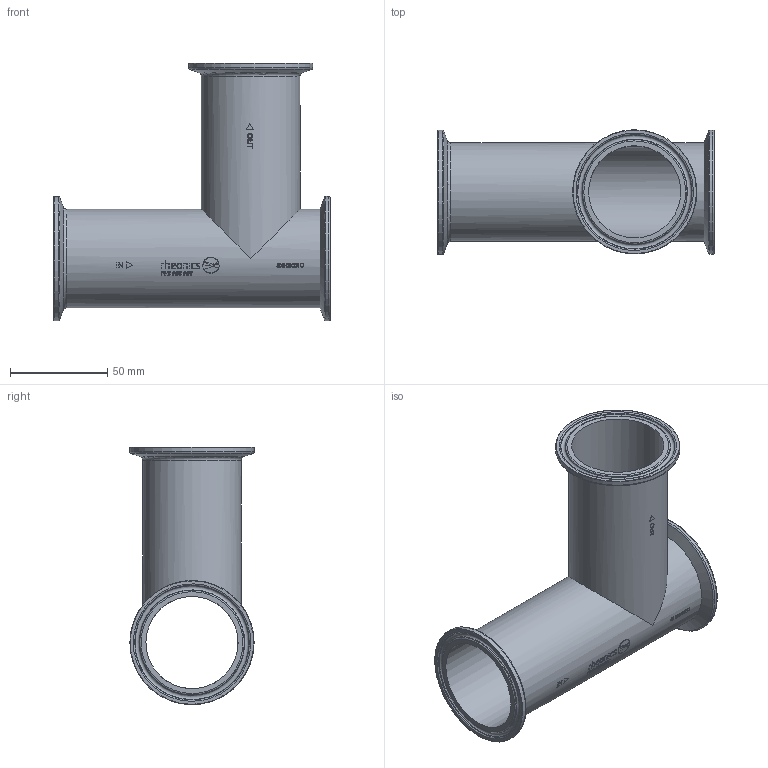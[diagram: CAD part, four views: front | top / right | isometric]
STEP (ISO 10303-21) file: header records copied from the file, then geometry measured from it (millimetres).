
FILE_DESCRIPTION(/* description */ ('Unknown'),/* implementation_level */ '2;1');
FILE_NAME(/* name */ 'FET-20T-20T',/* time_stamp */ '2024-08-13T15:55:27-05:00',/* author */ ('Unknown'),/* organization */ ('Unknown'),/* preprocessor_version */ 'ST-DEVELOPER v16.7',/* originating_system */ 'Solid Edge',/* authorisation */ 'Unknown');
FILE_SCHEMA (('CONFIG_CONTROL_DESIGN'));
Length unit declared in the file: millimetre
Products named in the file (1): FET-20T-20T
Bounding box: 142.5 x 64 x 132.6 mm (x, y, z)
Volume: 66522.6 mm3; surface area: 73335.4 mm2
Topology: 1 solids, 1 shells, 624 faces, 1594 edges, 1058 vertices
Faces by surface type: plane 268, bspline 234, cylinder 96, torus 17, cone 9
Full cylindrical faces by diameter (mm): 47.5 x2, 50.8 x2, 64 x3
Entity records: 42266 total; most frequent: CARTESIAN_POINT 24463, ORIENTED_EDGE 3024, DIRECTION 2123, EDGE_CURVE 1512, VERTEX_POINT 1034, EDGE_LOOP 770, FACE_BOUND 770, LINE 723
